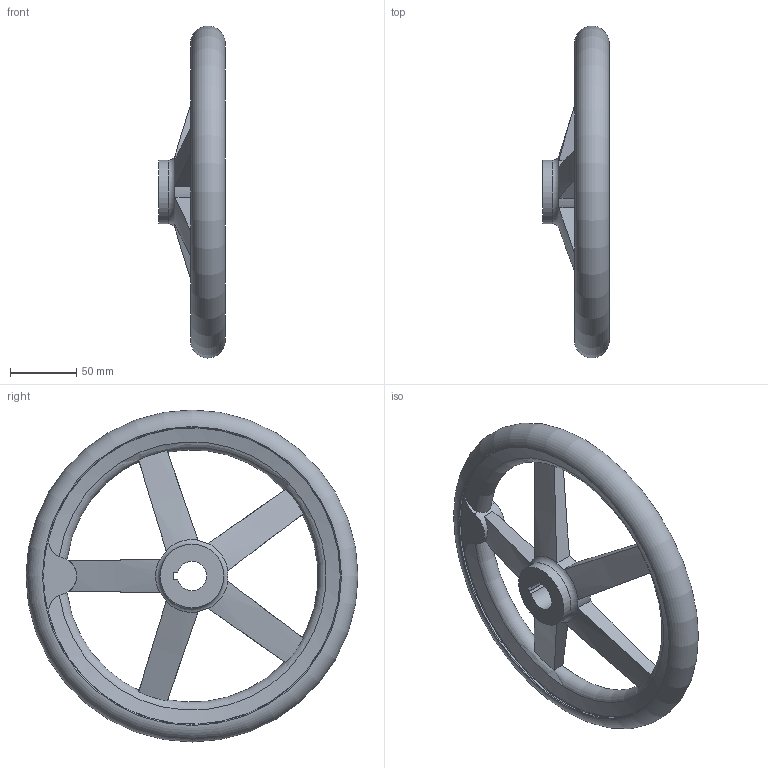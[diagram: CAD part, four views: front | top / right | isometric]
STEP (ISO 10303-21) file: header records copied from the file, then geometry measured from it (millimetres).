
FILE_DESCRIPTION( ( 'STEP AP203' ), '1' );
FILE_NAME( 'C:/Temp/Ganter_Step_05_03_2020/data/1_3/din_950/din_950_k/din_950_k_a/Handwheel DIN 950-GG-250-K22-A.stp', '2020-03-05T10:30:38', ( 'License CC BY-ND 4.0' ), ( 'CADENAS' ), ' ', 'PARTsolutions', ' ' );
FILE_SCHEMA( ( 'CONFIG_CONTROL_DESIGN' ) );
Length unit declared in the file: millimetre
Products named in the file (1): _Handwheel DIN 950-GG-250-K22-A
Bounding box: 50 x 249.99 x 249.99 mm (x, y, z)
Volume: 516616.1 mm3; surface area: 94964.4 mm2
Topology: 1 solids, 1 shells, 54 faces, 162 edges, 105 vertices
Faces by surface type: cylinder 17, plane 17, torus 12, cone 8
Full cylindrical faces by diameter (mm): 48 x2, 224 x2
Entity records: 2284 total; most frequent: CARTESIAN_POINT 905, ORIENTED_EDGE 292, DIRECTION 250, EDGE_CURVE 146, AXIS2_PLACEMENT_3D 111, VERTEX_POINT 102, EDGE_LOOP 73, FACE_OUTER_BOUND 65
